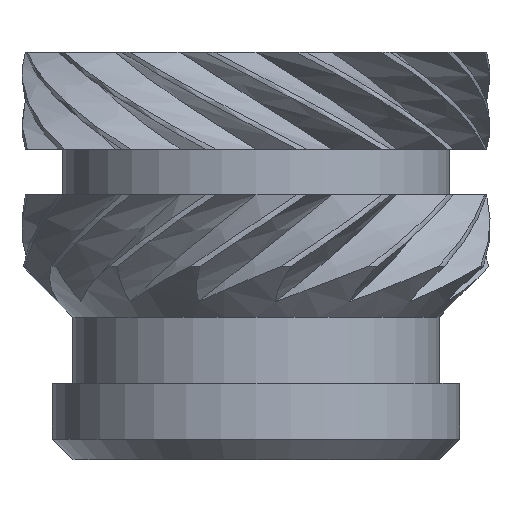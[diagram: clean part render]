
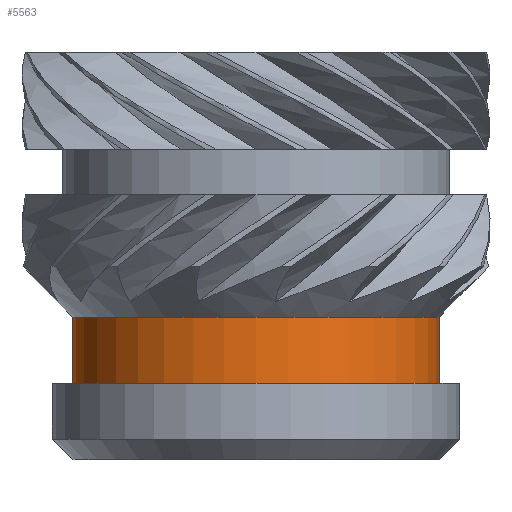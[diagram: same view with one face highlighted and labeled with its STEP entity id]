
A CAD part, front view. The second image highlights one B-rep face of the part: STEP entity #5563.
In plain terms, the highlighted cylindrical face has radius 1.8 mm (diameter 3.6 mm), a full revolution.
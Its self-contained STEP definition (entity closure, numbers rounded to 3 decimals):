
#426=FACE_OUTER_BOUND('',#752,.T.);
#752=EDGE_LOOP('',(#4358,#4359,#4360,#4361));
#1440=CIRCLE('',#5826,1.8);
#1499=CIRCLE('',#5924,1.8);
#1524=LINE('',#11061,#1852);
#1852=VECTOR('',#6330,1.8);
#2242=VERTEX_POINT('',#8095);
#2405=VERTEX_POINT('',#11058);
#2849=EDGE_CURVE('',#2242,#2242,#1440,.T.);
#3115=EDGE_CURVE('',#2405,#2405,#1499,.T.);
#3116=EDGE_CURVE('',#2242,#2405,#1524,.T.);
#4358=ORIENTED_EDGE('',*,*,#2849,.F.);
#4359=ORIENTED_EDGE('',*,*,#3116,.T.);
#4360=ORIENTED_EDGE('',*,*,#3115,.T.);
#4361=ORIENTED_EDGE('',*,*,#3116,.F.);
#5432=CYLINDRICAL_SURFACE('',#5925,1.8);
#5563=ADVANCED_FACE('',(#426),#5432,.T.);
#5826=AXIS2_PLACEMENT_3D('',#8097,#6127,#6128);
#5924=AXIS2_PLACEMENT_3D('',#11059,#6326,#6327);
#5925=AXIS2_PLACEMENT_3D('',#11060,#6328,#6329);
#6127=DIRECTION('center_axis',(0.,0.,1.));
#6128=DIRECTION('ref_axis',(1.,0.,0.));
#6326=DIRECTION('center_axis',(0.,0.,1.));
#6327=DIRECTION('ref_axis',(1.,0.,0.));
#6328=DIRECTION('center_axis',(0.,0.,1.));
#6329=DIRECTION('ref_axis',(1.,0.,0.));
#6330=DIRECTION('',(0.,0.,-1.));
#8095=CARTESIAN_POINT('',(-1.8,0.,1.4));
#8097=CARTESIAN_POINT('Origin',(0.,0.,1.4));
#11058=CARTESIAN_POINT('',(-1.8,0.,0.75));
#11059=CARTESIAN_POINT('Origin',(0.,0.,0.75));
#11060=CARTESIAN_POINT('Origin',(0.,0.,1.075));
#11061=CARTESIAN_POINT('',(-1.8,0.,1.075));
